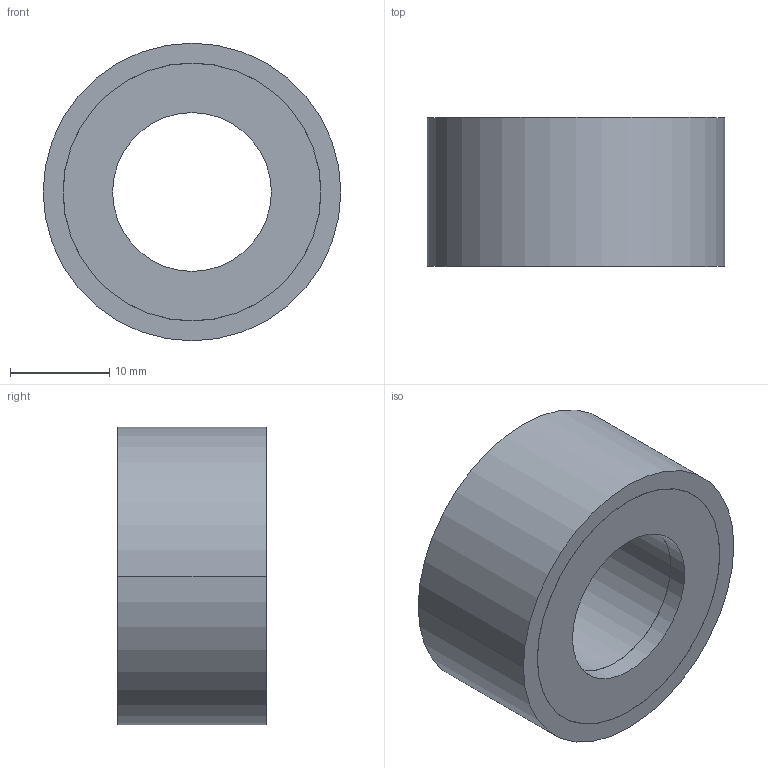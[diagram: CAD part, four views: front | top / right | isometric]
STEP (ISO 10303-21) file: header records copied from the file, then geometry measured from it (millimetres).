
FILE_DESCRIPTION (( 'STEP AP214' ), '1' );
FILE_NAME ('351-30-15-16-DD-40.step', '2025-07-23T10:14:07', ( '' ), ( '' ), 'SwSTEP 2.0', 'SolidWorks 2022', '' );
FILE_SCHEMA (( 'AUTOMOTIVE_DESIGN' ));
Length unit declared in the file: millimetre
Products named in the file (1): 351-30-15-16-DD-40
Bounding box: 30 x 15 x 30 mm (x, y, z)
Volume: 7586.9 mm3; surface area: 3184.6 mm2
Topology: 1 solids, 1 shells, 30 faces, 60 edges, 40 vertices
Faces by surface type: cylinder 20, plane 10
Entity records: 919 total; most frequent: DIRECTION 162, CARTESIAN_POINT 131, ORIENTED_EDGE 120, AXIS2_PLACEMENT_3D 71, EDGE_CURVE 60, VERTEX_POINT 40, CIRCLE 40, EDGE_LOOP 40
